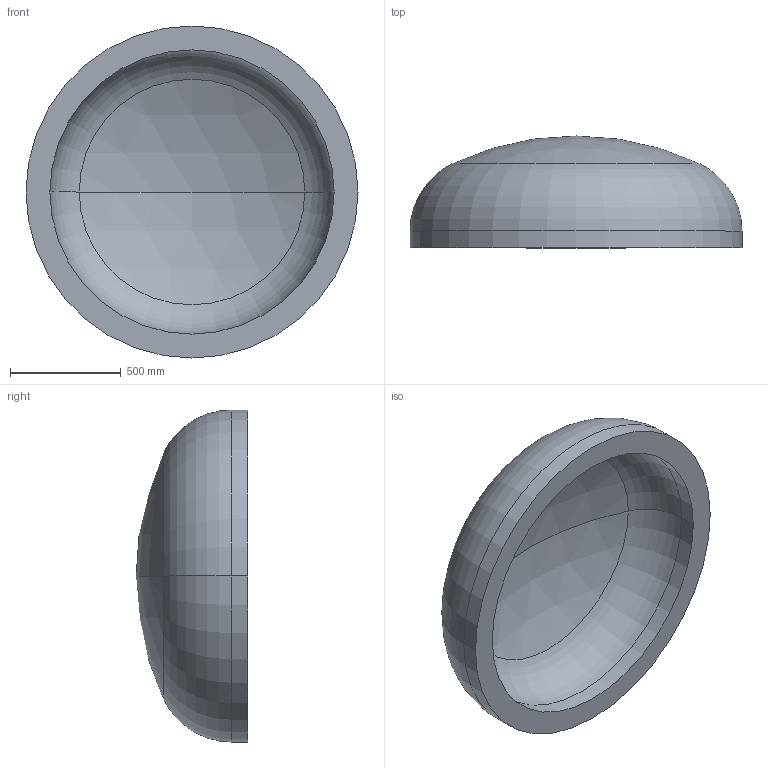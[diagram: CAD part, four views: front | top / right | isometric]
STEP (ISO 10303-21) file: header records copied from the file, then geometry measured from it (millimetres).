
FILE_DESCRIPTION (( 'STEP AP203' ), '1' );
FILE_NAME ('DIN 28013 Korbbogenform_-_Boden DIN 28013 - 1500 x 75 - I - s=108.step', '2016-07-01T10:59:27', ( '' ), ( '' ), 'SwSTEP 2.0', 'SolidWorks 2013', '' );
FILE_SCHEMA (( 'CONFIG_CONTROL_DESIGN' ));
Length unit declared in the file: millimetre
Products named in the file (1): DIN 28013 Korbbogenform_-_Boden DIN 28013 - 1500 x 75 - I - s=108
Bounding box: 1500 x 504.85 x 1500 mm (x, y, z)
Volume: 276558735.4 mm3; surface area: 5618180.4 mm2
Topology: 1 solids, 1 shells, 13 faces, 24 edges, 14 vertices
Faces by surface type: torus 4, cylinder 4, sphere 4, plane 1
Entity records: 407 total; most frequent: DIRECTION 72, CARTESIAN_POINT 52, ORIENTED_EDGE 48, AXIS2_PLACEMENT_3D 34, EDGE_CURVE 24, CIRCLE 20, EDGE_LOOP 14, VERTEX_POINT 14
